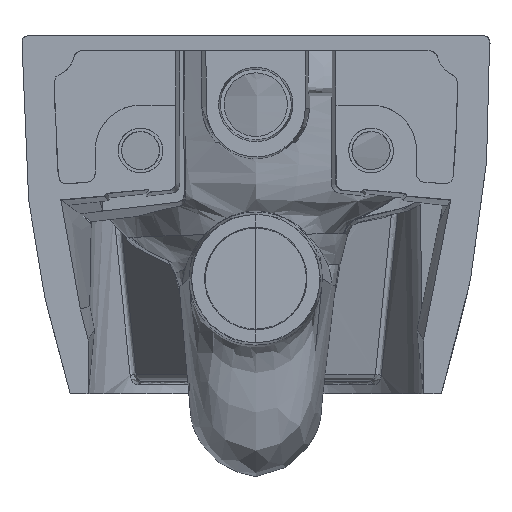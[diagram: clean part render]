
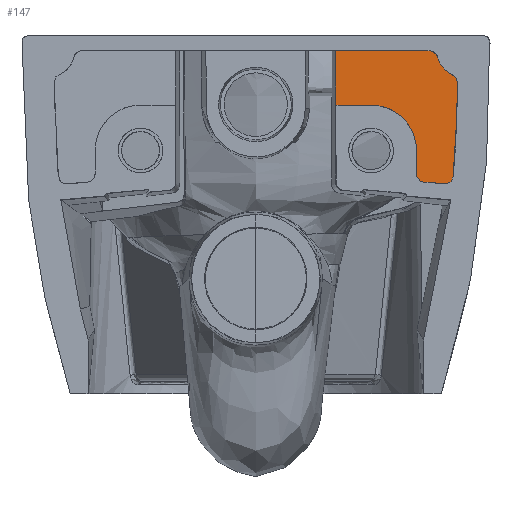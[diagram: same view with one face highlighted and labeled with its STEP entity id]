
A CAD part, front view. The second image highlights one B-rep face of the part: STEP entity #147.
In plain terms, the highlighted planar face has unit normal (0, -1, 0).
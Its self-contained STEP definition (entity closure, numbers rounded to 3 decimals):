
#147=ADVANCED_FACE('',(#304),#2565,.T.);
#304=FACE_OUTER_BOUND('',#472,.T.);
#472=EDGE_LOOP('',(#1169,#1170));
#1169=ORIENTED_EDGE('',*,*,#1659,.T.);
#1170=ORIENTED_EDGE('',*,*,#1700,.F.);
#1659=EDGE_CURVE('',#2489,#2486,#2136,.T.);
#1700=EDGE_CURVE('',#2489,#2486,#2177,.T.);
#2136=B_SPLINE_CURVE_WITH_KNOTS('',3,(#17889,#17890,#17891,#17892),
 .UNSPECIFIED.,.F.,.F.,(4,4),(56.603,99.124),
 .UNSPECIFIED.);
#2177=B_SPLINE_CURVE_WITH_KNOTS('',3,(#18109,#18110,#18111,#18112,#18113,
#18114,#18115,#18116,#18117,#18118,#18119,#18120,#18121,#18122,#18123,#18124,
#18125,#18126,#18127,#18128,#18129,#18130,#18131,#18132,#18133,#18134,#18135,
#18136,#18137,#18138,#18139,#18140,#18141,#18142,#18143,#18144,#18145,#18146,
#18147,#18148,#18149,#18150),.UNSPECIFIED.,.F.,.F.,(4,1,1,1,1,1,1,1,1,1,
1,1,1,1,1,1,1,1,1,1,1,1,1,1,1,1,1,1,1,1,1,1,1,1,1,1,1,1,1,4),(-318.981,
-279.108,-259.172,-249.204,-246.712,
-244.22,-239.236,-236.744,-234.252,
-229.268,-219.299,-216.807,-215.561,
-214.315,-209.331,-199.363,-159.49,
-149.522,-139.554,-138.308,-137.062,
-134.57,-129.586,-127.094,-124.602,
-119.618,-114.634,-112.142,-109.65,
-104.666,-102.174,-99.682,-89.713,
-79.745,-59.809,-39.873,-29.904,
-24.92,-19.936,0.),.UNSPECIFIED.);
#2486=VERTEX_POINT('',#15375);
#2489=VERTEX_POINT('',#15378);
#2565=PLANE('',#2810);
#2810=AXIS2_PLACEMENT_3D('',#12274,#2830,$);
#2830=DIRECTION('',(0.,-1.,0.));
#12274=CARTESIAN_POINT('',(62.621,38.001,-10.959));
#15375=CARTESIAN_POINT('',(62.587,37.991,-54.534));
#15378=CARTESIAN_POINT('',(62.621,38.001,-12.));
#17889=CARTESIAN_POINT('',(62.621,38.001,-12.));
#17890=CARTESIAN_POINT('',(62.61,37.997,-26.178));
#17891=CARTESIAN_POINT('',(62.598,37.994,-40.356));
#17892=CARTESIAN_POINT('',(62.587,37.991,-54.534));
#18109=CARTESIAN_POINT('',(62.621,38.001,-12.));
#18110=CARTESIAN_POINT('',(75.912,38.001,-12.));
#18111=CARTESIAN_POINT('',(95.849,38.001,-11.999));
#18112=CARTESIAN_POINT('',(119.106,38.001,-12.002));
#18113=CARTESIAN_POINT('',(129.908,38.001,-11.995));
#18114=CARTESIAN_POINT('',(134.884,38.001,-12.015));
#18115=CARTESIAN_POINT('',(138.247,38.001,-11.942));
#18116=CARTESIAN_POINT('',(141.221,38.,-14.109));
#18117=CARTESIAN_POINT('',(142.072,37.999,-17.371));
#18118=CARTESIAN_POINT('',(143.07,37.999,-20.533));
#18119=CARTESIAN_POINT('',(145.938,37.998,-25.652));
#18120=CARTESIAN_POINT('',(150.535,37.997,-29.485));
#18121=CARTESIAN_POINT('',(154.841,37.996,-31.118));
#18122=CARTESIAN_POINT('',(156.035,37.996,-32.293));
#18123=CARTESIAN_POINT('',(157.622,37.996,-34.373));
#18124=CARTESIAN_POINT('',(157.446,37.994,-39.878));
#18125=CARTESIAN_POINT('',(157.236,37.99,-58.11));
#18126=CARTESIAN_POINT('',(156.533,37.986,-78.069));
#18127=CARTESIAN_POINT('',(155.183,37.982,-97.959));
#18128=CARTESIAN_POINT('',(154.633,37.98,-105.004));
#18129=CARTESIAN_POINT('',(154.229,37.979,-109.135));
#18130=CARTESIAN_POINT('',(154.169,37.979,-110.805));
#18131=CARTESIAN_POINT('',(153.488,37.978,-113.674));
#18132=CARTESIAN_POINT('',(150.674,37.978,-116.027));
#18133=CARTESIAN_POINT('',(147.3,37.978,-116.112));
#18134=CARTESIAN_POINT('',(144.004,37.978,-115.735));
#18135=CARTESIAN_POINT('',(139.863,37.978,-115.394));
#18136=CARTESIAN_POINT('',(135.725,37.978,-115.035));
#18137=CARTESIAN_POINT('',(132.426,37.978,-114.7));
#18138=CARTESIAN_POINT('',(129.061,37.978,-114.589));
#18139=CARTESIAN_POINT('',(126.167,37.979,-112.354));
#18140=CARTESIAN_POINT('',(125.358,37.979,-109.078));
#18141=CARTESIAN_POINT('',(125.499,37.98,-104.074));
#18142=CARTESIAN_POINT('',(125.316,37.982,-96.619));
#18143=CARTESIAN_POINT('',(125.922,37.985,-83.247));
#18144=CARTESIAN_POINT('',(119.588,37.988,-67.158));
#18145=CARTESIAN_POINT('',(105.656,37.991,-56.95));
#18146=CARTESIAN_POINT('',(94.16,37.991,-54.512));
#18147=CARTESIAN_POINT('',(87.506,37.991,-54.528));
#18148=CARTESIAN_POINT('',(77.54,37.991,-54.542));
#18149=CARTESIAN_POINT('',(69.232,37.991,-54.532));
#18150=CARTESIAN_POINT('',(62.587,37.991,-54.534));
